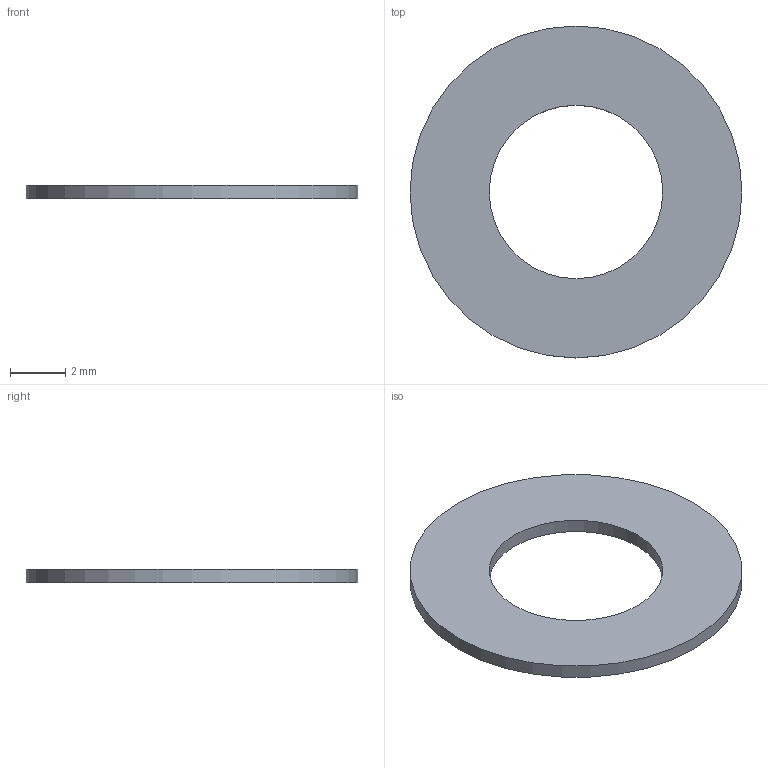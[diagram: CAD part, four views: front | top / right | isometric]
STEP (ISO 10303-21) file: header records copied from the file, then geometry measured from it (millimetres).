
FILE_DESCRIPTION(('Open CASCADE Model'),'2;1');
FILE_NAME('Open CASCADE Shape Model','2026-09-24T17:43:00',('Author'),( 'Open CASCADE'),'Open CASCADE STEP processor 7.8','Open CASCADE 7.8' ,'Unknown');
FILE_SCHEMA(('AUTOMOTIVE_DESIGN { 1 0 10303 214 1 1 1 1 }'));
Length unit declared in the file: millimetre
Products named in the file (1): Open CASCADE STEP translator 7.8 19
Bounding box: 12.06 x 12.06 x 0.5 mm (x, y, z)
Volume: 41.5 mm3; surface area: 195 mm2
Topology: 1 solids, 1 shells, 4 faces, 6 edges, 4 vertices
Faces by surface type: cylinder 2, plane 2
Full cylindrical faces by diameter (mm): 6.3 x1, 12.06 x1
Entity records: 186 total; most frequent: DIRECTION 32, CARTESIAN_POINT 27, ORIENTED_EDGE 12, PCURVE 12, DEFINITIONAL_REPRESENTATION 12, LINE 10, VECTOR 10, AXIS2_PLACEMENT_3D 9
